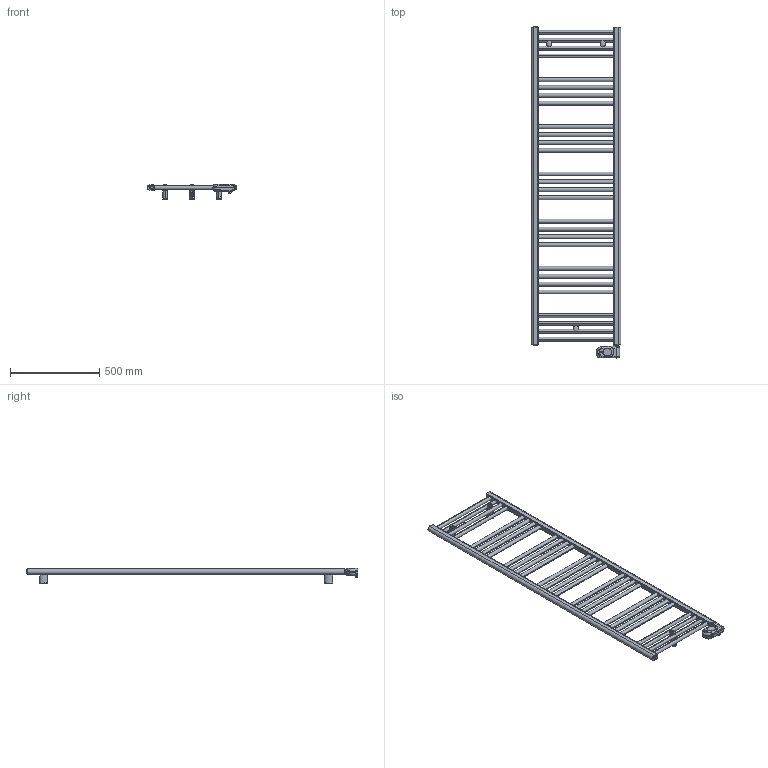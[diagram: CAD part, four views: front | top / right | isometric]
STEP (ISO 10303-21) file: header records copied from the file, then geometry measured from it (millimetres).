
FILE_DESCRIPTION((''),'2;1');
FILE_NAME('3581656100017_3D_SITO_ASM','2026-01-13T17:15:22',('PC132'),(''),'CREO PARAMETRIC BY PTC INC, 2025323','CREO PARAMETRIC BY PTC INC, 2025323','');
FILE_SCHEMA(('AUTOMOTIVE_DESIGN { 1 0 10303 214 1 1 1 1 }'));
Length unit declared in the file: millimetre
Products named in the file (17): 2551650500217_3D_SITO; BICCHIERE_PARETE; PERNO_SCORROVOLE; DADO_QUADRO_M5_X_GIUNTO; DADO_M6_X_GIUNTO; PERNO_SCORREVOLE_ASM; BASETTA_ANTERIORE; 1527181430001; VITE_CR_M5_16; VITE_CR_SV_M6_35; 1102001310058_ASM; 1010181240001; 11170_CODOLO_RES_MOD_3D_SITO; 1035270000037_FRONT; 1035270000037_BACK; 1035270000060_ASM; 3581656100017_3D_SITO_ASM
Assembly tree (19 placements, depth 4):
  3581656100017_3D_SITO_ASM
    2551650500217_3D_SITO
    1102001310058_ASM  x3
      BICCHIERE_PARETE
      PERNO_SCORREVOLE_ASM
        PERNO_SCORROVOLE
        DADO_QUADRO_M5_X_GIUNTO
        DADO_M6_X_GIUNTO
      BASETTA_ANTERIORE
      1527181430001
      VITE_CR_M5_16
      VITE_CR_SV_M6_35
    1010181240001  x2
    11170_CODOLO_RES_MOD_3D_SITO
    1035270000060_ASM
      1035270000037_FRONT
      1035270000037_BACK
Bounding box: 500 x 1856.8 x 88.65 mm (x, y, z)
Volume: 8769981.9 mm3; surface area: 1384250.7 mm2
Topology: 32 solids, 44 shells, 4988 faces, 10960 edges, 6079 vertices
Faces by surface type: cylinder 1940, plane 864, torus 764, sphere 641, bspline 609, cone 116, extrusion 54
Entity records: 109900 total; most frequent: CARTESIAN_POINT 41713, DIRECTION 9884, ORIENTED_EDGE 8348, PRESENTATION_STYLE_ASSIGNMENT 4304, STYLED_ITEM 4300, CURVE_STYLE 4283, EDGE_CURVE 4184, AXIS2_PLACEMENT_3D 4115
